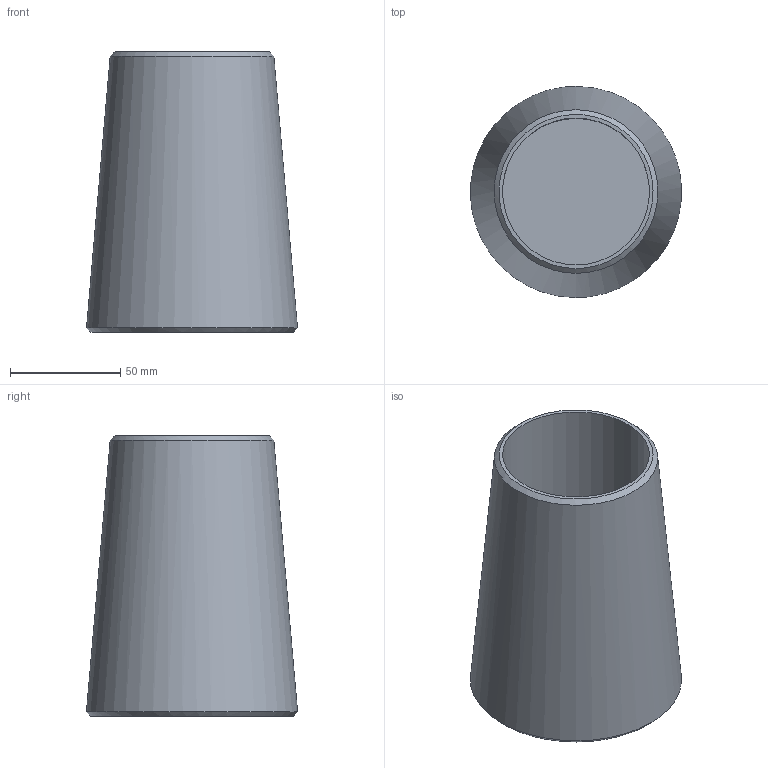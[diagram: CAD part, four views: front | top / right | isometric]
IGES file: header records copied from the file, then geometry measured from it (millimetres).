
Global section: file name: 520-064-KMU; native system: Autodesk Inventor 2016; preprocessor: unknown; author: BAYR; date: 20200618.123544; units: millimetre
Bounding box: 95.56 x 95.65 x 127 mm (x, y, z)
Volume: 392020.3 mm3; surface area: 64734.9 mm2
Topology: 1 solids, 1 shells, 7 faces, 14 edges, 10 vertices
Faces by surface type: bspline 7
